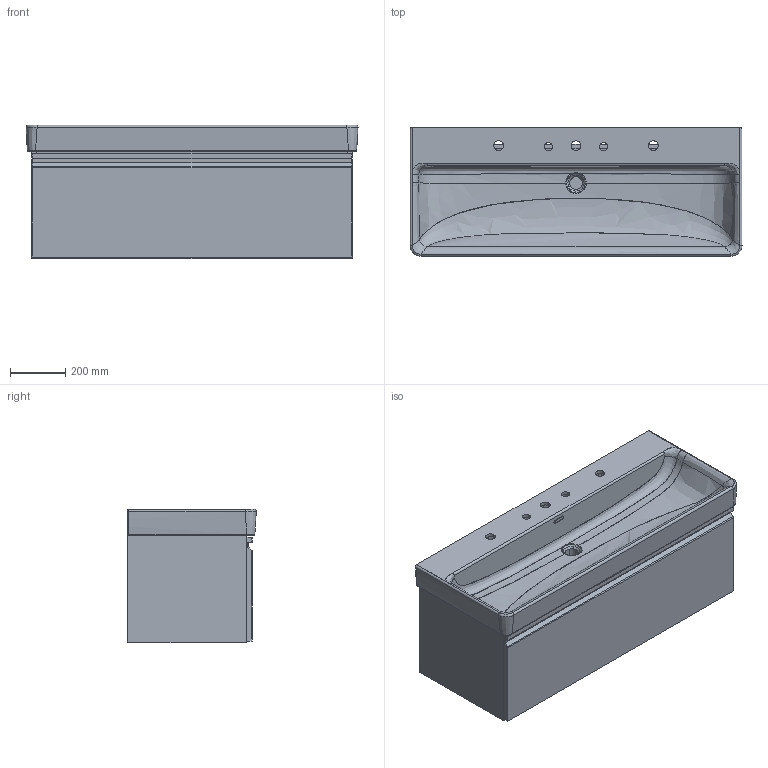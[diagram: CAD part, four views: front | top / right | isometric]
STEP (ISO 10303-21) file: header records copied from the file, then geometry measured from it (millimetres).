
FILE_DESCRIPTION(/* description */ (''),/* implementation_level */ '2;1');
FILE_NAME(/* name */ 'C:\Users\User33\Desktop\Pro S\3D01_483561.stp',/* time_stamp */ '2018-05-10T13:15:08+02:00',/* author */ ('User33'),/* organization */ (''),/* preprocessor_version */ 'ST-DEVELOPER v16.13',/* originating_system */ 'Autodesk Inventor 2018',/* authorisation */ '');
FILE_SCHEMA (('AUTOMOTIVE_DESIGN { 1 0 10303 214 3 1 1 }'));
Products named in the file (20): Assieme10; Parte646; Parte648; Parte650; Parte656; Parte658; Parte660; Parte664; Parte670; Parte674; Parte686; Parte688; Parte690; Parte692; Parte694; Parte704; Parte706; Parte708; Parte710; Parte712
Assembly tree (19 placements, depth 2):
  Assieme10
    Parte646
    Parte648
    Parte650
    Parte656
    Parte658
    Parte660
    Parte664
    Parte670
    Parte674
    Parte686
    Parte688
    Parte690
    Parte692
    Parte694
    Parte704
    Parte706
    Parte708
    Parte710
    Parte712
Bounding box: 1200.76 x 465.28 x 483 mm (x, y, z)
Volume: 33125995.9 mm3; surface area: 6360412.2 mm2
Topology: 18 solids, 726 shells, 1215 faces, 4669 edges, 4217 vertices
Faces by surface type: plane 457, bspline 354, cylinder 339, torus 40, cone 15, sphere 10
Full cylindrical faces by diameter (mm): 2.5 x2, 4 x8, 4.1 x2, 5.1 x2, 6 x6, 7.2 x2, 10 x2, 12 x2, 12.5 x2
Entity records: 191314 total; most frequent: CARTESIAN_POINT 152893, DIRECTION 6934, ORIENTED_EDGE 5915, EDGE_CURVE 4631, VERTEX_POINT 4216, AXIS2_PLACEMENT_3D 2515, LINE 1904, VECTOR 1904
